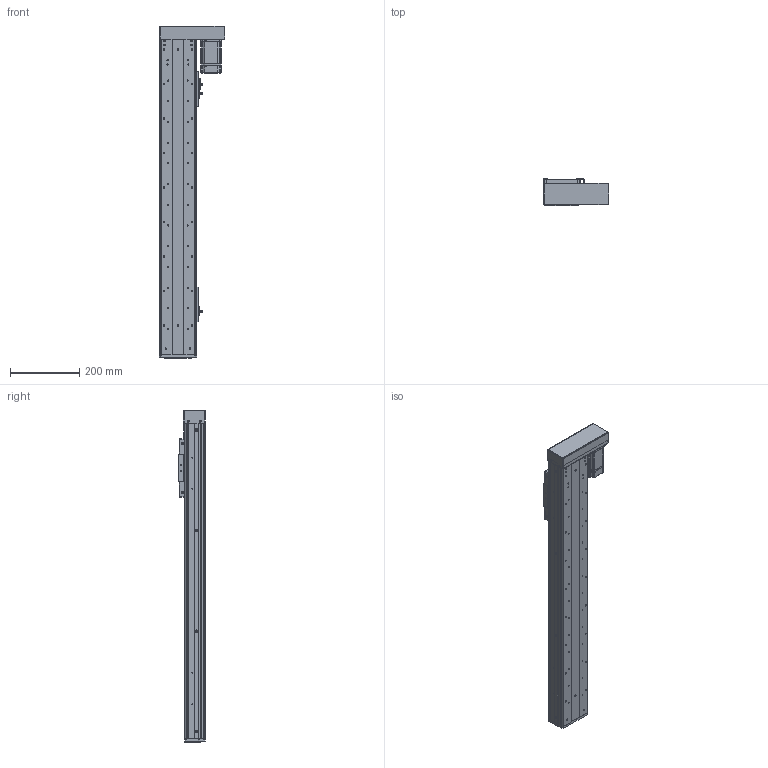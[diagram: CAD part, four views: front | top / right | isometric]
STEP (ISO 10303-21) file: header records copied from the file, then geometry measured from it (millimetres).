
FILE_DESCRIPTION (( 'STEP AP203' ), '1' );
FILE_NAME ('RY100FS-L1620-300-RK(15双轨).SLDASM_650.step', '2021-03-02T07:46:18', ( '盈信电脑' ), ( '东莞市道滘镇水果街19号' ), 'SwSTEP 2.0', 'SolidWorks 2012', '' );
FILE_SCHEMA (( 'CONFIG_CONTROL_DESIGN' ));
Products named in the file (21): RY100FS-L1620-300-RK(15邧寢).SLDASM_650; RY100FS-15邧寢蛌殏萇儂啣; RY100FS-15邧寢蛌殏萇儂欶; 蚥薯蝶紫輸; 滅袉蝶14-35; 1; RY100FS-双轨螺母座(16丝杆）; RY100FS-15邧寢蛌殏萇儂釱; 覜茼ん672; RY100F-詩湍揤踡輸; 672嫖萇羲壽假蚾釱; RY80俋离覜茼え; RY100F-綴裔啣; RY100F-詩湍幗謫粣; 棠沺沭; RY100F-詩湍揤踡謫; RY100FS-双轨铝滑块(上板）; RY100FS-300-RK15邧寢祥凄詩湍_650; RY100F-滅鳥裔啣; RY100FS-300-RK15絳寢倰第奻裔啣_650; RY100FS-300-RK15絳寢倰第菁釱_650
Assembly tree (29 placements, depth 2):
  RY100FS-L1620-300-RK(15邧寢).SLDASM_650
    RY100FS-300-RK15絳寢倰第菁釱_650
    RY100FS-300-RK15絳寢倰第奻裔啣_650  x2
    RY100FS-300-RK15邧寢祥凄詩湍_650
    RY100FS-双轨铝滑块(上板）
    RY100F-滅鳥裔啣
    棠沺沭  x2
    RY100F-詩湍幗謫粣
    RY100F-詩湍揤踡謫  x2
    RY100F-綴裔啣
    672嫖萇羲壽假蚾釱  x2
    RY80俋离覜茼え  x2
    覜茼ん672  x3
    RY100F-詩湍揤踡輸  x2
    RY100FS-双轨螺母座(16丝杆）
    RY100FS-15邧寢蛌殏萇儂釱
    滅袉蝶14-35
    1
    RY100FS-15邧寢蛌殏萇儂啣
    RY100FS-15邧寢蛌殏萇儂欶
    蚥薯蝶紫輸  x2
Bounding box: 189.5 x 78.5 x 962 mm (x, y, z)
Volume: 2388760.1 mm3; surface area: 1014287.1 mm2
Topology: 29 solids, 29 shells, 2242 faces, 6079 edges, 3923 vertices
Faces by surface type: plane 1026, cylinder 1015, cone 168, bspline 33
Entity records: 64143 total; most frequent: CARTESIAN_POINT 13471, DIRECTION 10108, ORIENTED_EDGE 9962, EDGE_CURVE 4981, AXIS2_PLACEMENT_3D 3576, VERTEX_POINT 3271, VECTOR 2956, LINE 2956
